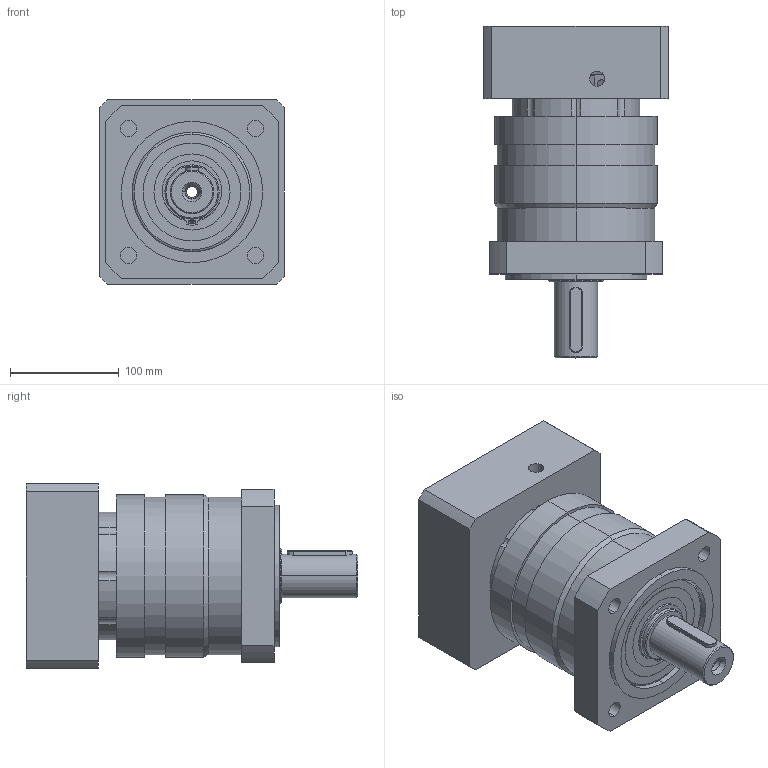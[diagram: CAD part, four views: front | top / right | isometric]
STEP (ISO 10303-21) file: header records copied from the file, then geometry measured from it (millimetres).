
FILE_DESCRIPTION (( 'STEP AP214' ), '1' );
FILE_NAME ('150珨撰源怀堤俋褲.STEP', '2017-04-27T05:14:51', ( '' ), ( '' ), 'SwSTEP 2.0', 'SolidWorks 2016', '' );
FILE_SCHEMA (( 'AUTOMOTIVE_DESIGN' ));
Length unit declared in the file: millimetre
Products named in the file (1): 150珨撰源怀堤俋褲
Bounding box: 170 x 305.15 x 170 mm (x, y, z)
Surface area: 323695.6 mm2 (no closed solid volume)
Topology: 0 solids, 13 shells, 163 faces, 518 edges, 356 vertices
Faces by surface type: cylinder 113, plane 34, cone 12, torus 4
Entity records: 7973 total; most frequent: CARTESIAN_POINT 1300, DIRECTION 1155, ORIENTED_EDGE 882, EDGE_CURVE 518, AXIS2_PLACEMENT_3D 479, VERTEX_POINT 356, CIRCLE 315, EDGE_LOOP 205
